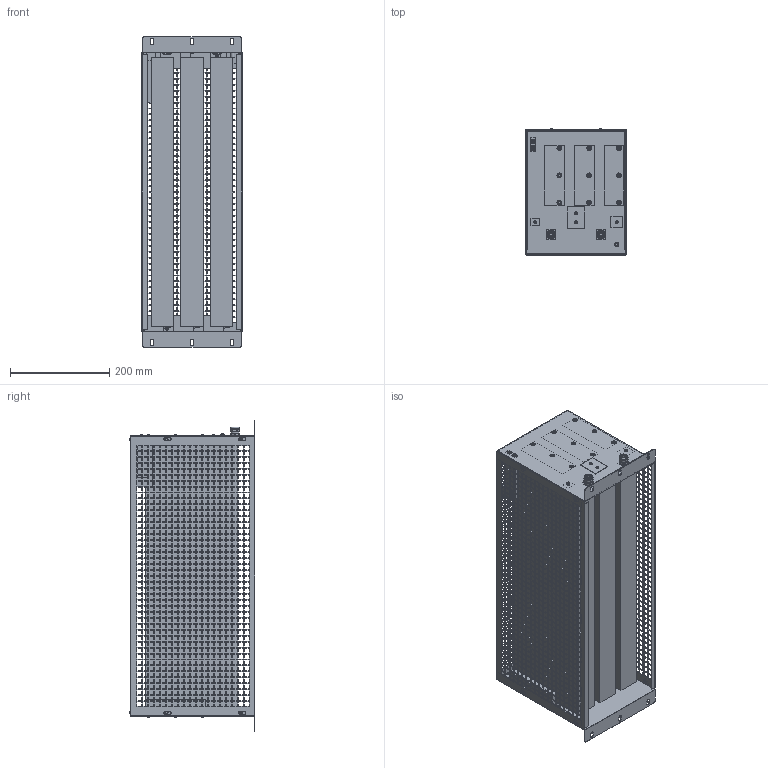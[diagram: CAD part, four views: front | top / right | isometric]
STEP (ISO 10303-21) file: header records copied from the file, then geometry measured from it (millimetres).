
FILE_DESCRIPTION(/* description */ (''),/* implementation_level */ '2;1');
FILE_NAME(/* name */ 'C:\_Vault\Dati\CATALOGO\RMX\RM 03X-Esterno.stp',/* time_stamp */ '2021-11-29T16:24:36+01:00',/* author */ ('claudio'),/* organization */ (''),/* preprocessor_version */ 'ST-DEVELOPER v18.1',/* originating_system */ 'Autodesk Inventor 2022',/* authorisation */ '');
FILE_SCHEMA (('AUTOMOTIVE_DESIGN { 1 0 10303 214 3 1 1 }'));
Products named in the file (2): RM 03X; RM 03X-Esterno
Assembly tree (1 placements, depth 2):
  RM 03X
    RM 03X-Esterno
Bounding box: 205.2 x 252.6 x 625 mm (x, y, z)
Volume: 14332324.2 mm3; surface area: 1463322.9 mm2
Topology: 1 solids, 29 shells, 10277 faces, 30474 edges, 20171 vertices
Faces by surface type: plane 9936, cylinder 208, cone 102, torus 31
Full cylindrical faces by diameter (mm): 3 x3, 3.2 x1, 4 x2, 4.8 x32, 4.917 x1, 5 x20, 6.3 x4, 8.8 x1, 9.6 x2, 9.8 x2, 11 x4, 11.6 x4, 13.86 x2, 15.2 x6, 15.5 x4, 17 x4
Entity records: 356436 total; most frequent: CARTESIAN_POINT 61165, ORIENTED_EDGE 60948, DIRECTION 51648, EDGE_CURVE 30474, LINE 29620, VECTOR 29620, VERTEX_POINT 20171, EDGE_LOOP 14995
